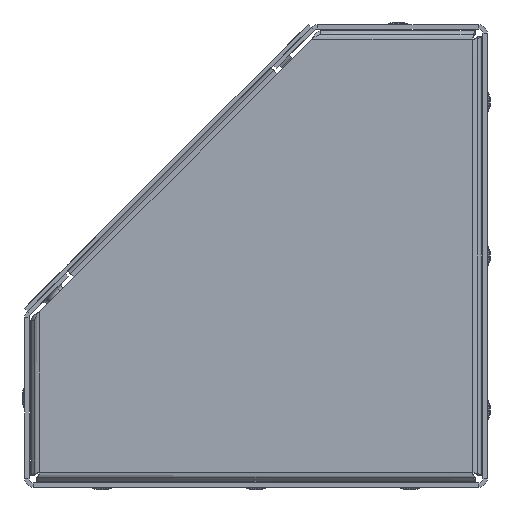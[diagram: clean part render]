
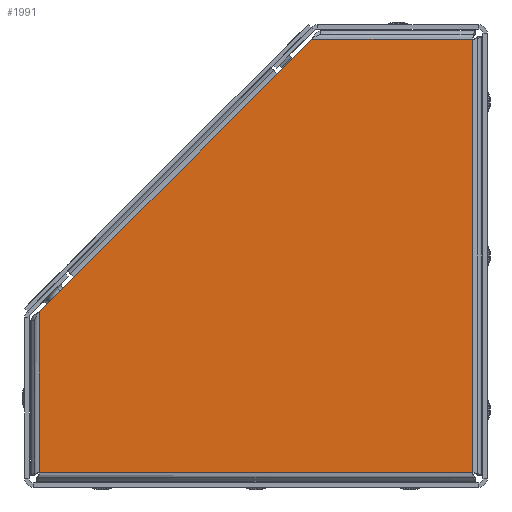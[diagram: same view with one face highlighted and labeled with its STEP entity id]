
A CAD part, left-side view. The second image highlights one B-rep face of the part: STEP entity #1991.
In plain terms, the highlighted planar face has unit normal (-1, 0, 0) as drawn and (1, 0, 0) by its records, which use the part's own axes.
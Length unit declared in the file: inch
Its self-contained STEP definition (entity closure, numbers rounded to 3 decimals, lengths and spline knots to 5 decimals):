
#397 = DIRECTION ( 'NONE',  ( 1., 0., 0. ) ) ;
#549 = VECTOR ( 'NONE', #7192, 39.37008 ) ;
#712 = VECTOR ( 'NONE', #7663, 39.37008 ) ;
#727 = VECTOR ( 'NONE', #15285, 39.37008 ) ;
#944 = CARTESIAN_POINT ( 'NONE',  ( 0., 5.62, -5.62 ) ) ;
#958 = CARTESIAN_POINT ( 'NONE',  ( 0., 2.53526, -0.44725 ) ) ;
#1035 = EDGE_LOOP ( 'NONE', ( #7416, #4004, #6161, #2476, #9499, #10564, #8841 ) ) ;
#1134 = LINE ( 'NONE', #1410, #727 ) ;
#1333 = CARTESIAN_POINT ( 'NONE',  ( 0., 2.08801, 0. ) ) ;
#1410 = CARTESIAN_POINT ( 'NONE',  ( 0., 0., -5.62 ) ) ;
#1454 = VECTOR ( 'NONE', #11095, 39.37008 ) ;
#1644 = DIRECTION ( 'NONE',  ( 0., -0.707, 0.707 ) ) ;
#1861 = CARTESIAN_POINT ( 'NONE',  ( 0., 5.62, -3.53199 ) ) ;
#1991 = ADVANCED_FACE ( 'NONE', ( #13312 ), #7915, .T. ) ;
#2094 = CARTESIAN_POINT ( 'NONE',  ( 0., 0., -5.62 ) ) ;
#2306 = CARTESIAN_POINT ( 'NONE',  ( 0., 5.62, -3.53199 ) ) ;
#2339 = VERTEX_POINT ( 'NONE', #13936 ) ;
#2476 = ORIENTED_EDGE ( 'NONE', *, *, #10165, .T. ) ;
#3164 = VERTEX_POINT ( 'NONE', #3247 ) ;
#3247 = CARTESIAN_POINT ( 'NONE',  ( 0., 5.17275, -3.08474 ) ) ;
#3835 = VERTEX_POINT ( 'NONE', #958 ) ;
#4004 = ORIENTED_EDGE ( 'NONE', *, *, #15283, .T. ) ;
#4118 = CARTESIAN_POINT ( 'NONE',  ( 0., 5.62, -3.53199 ) ) ;
#4448 = VERTEX_POINT ( 'NONE', #2094 ) ;
#4791 = LINE ( 'NONE', #2306, #1454 ) ;
#5185 = VECTOR ( 'NONE', #1644, 39.37008 ) ;
#5732 = EDGE_CURVE ( 'NONE', #14800, #3164, #8544, .T. ) ;
#5799 = DIRECTION ( 'NONE',  ( 0., -1., 0. ) ) ;
#6004 = VECTOR ( 'NONE', #8186, 39.37008 ) ;
#6161 = ORIENTED_EDGE ( 'NONE', *, *, #11557, .T. ) ;
#6286 = EDGE_CURVE ( 'NONE', #3835, #7882, #4791, .T. ) ;
#6369 = CARTESIAN_POINT ( 'NONE',  ( 0., 0., 0. ) ) ;
#6381 = LINE ( 'NONE', #12104, #10132 ) ;
#7192 = DIRECTION ( 'NONE',  ( 0., 0., 1. ) ) ;
#7416 = ORIENTED_EDGE ( 'NONE', *, *, #12409, .T. ) ;
#7628 = VERTEX_POINT ( 'NONE', #9411 ) ;
#7663 = DIRECTION ( 'NONE',  ( 0., 0., -1. ) ) ;
#7882 = VERTEX_POINT ( 'NONE', #1333 ) ;
#7915 = PLANE ( 'NONE',  #12159 ) ;
#8186 = DIRECTION ( 'NONE',  ( 0., -0.707, 0.707 ) ) ;
#8544 = LINE ( 'NONE', #4118, #5185 ) ;
#8841 = ORIENTED_EDGE ( 'NONE', *, *, #6286, .T. ) ;
#9188 = DIRECTION ( 'NONE',  ( 0., 0., -1. ) ) ;
#9353 = LINE ( 'NONE', #14482, #6004 ) ;
#9411 = CARTESIAN_POINT ( 'NONE',  ( 0., 0., 0. ) ) ;
#9499 = ORIENTED_EDGE ( 'NONE', *, *, #5732, .T. ) ;
#10132 = VECTOR ( 'NONE', #5799, 39.37008 ) ;
#10165 = EDGE_CURVE ( 'NONE', #2339, #14800, #13550, .T. ) ;
#10564 = ORIENTED_EDGE ( 'NONE', *, *, #15579, .T. ) ;
#11095 = DIRECTION ( 'NONE',  ( 0., -0.707, 0.707 ) ) ;
#11539 = LINE ( 'NONE', #6369, #712 ) ;
#11557 = EDGE_CURVE ( 'NONE', #4448, #2339, #1134, .T. ) ;
#12104 = CARTESIAN_POINT ( 'NONE',  ( 0., 2.08801, 0. ) ) ;
#12159 = AXIS2_PLACEMENT_3D ( 'NONE', #12925, #397, #9188 ) ;
#12409 = EDGE_CURVE ( 'NONE', #7882, #7628, #6381, .T. ) ;
#12925 = CARTESIAN_POINT ( 'NONE',  ( 0., 0., 0. ) ) ;
#13312 = FACE_OUTER_BOUND ( 'NONE', #1035, .T. ) ;
#13550 = LINE ( 'NONE', #944, #549 ) ;
#13936 = CARTESIAN_POINT ( 'NONE',  ( 0., 5.62, -5.62 ) ) ;
#14482 = CARTESIAN_POINT ( 'NONE',  ( 0., 5.17275, -3.08474 ) ) ;
#14800 = VERTEX_POINT ( 'NONE', #1861 ) ;
#15283 = EDGE_CURVE ( 'NONE', #7628, #4448, #11539, .T. ) ;
#15285 = DIRECTION ( 'NONE',  ( 0., 1., 0. ) ) ;
#15579 = EDGE_CURVE ( 'NONE', #3164, #3835, #9353, .T. ) ;
